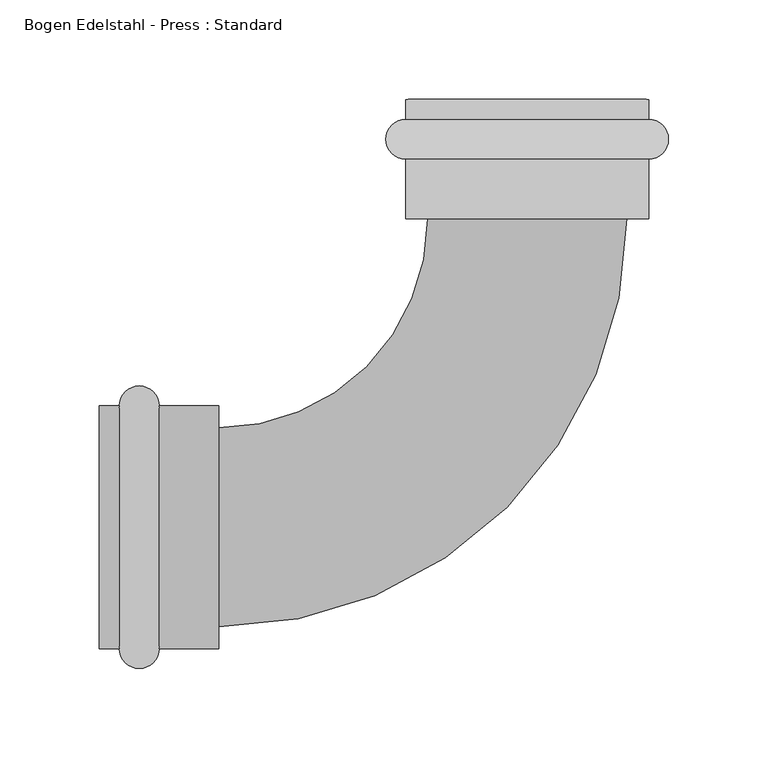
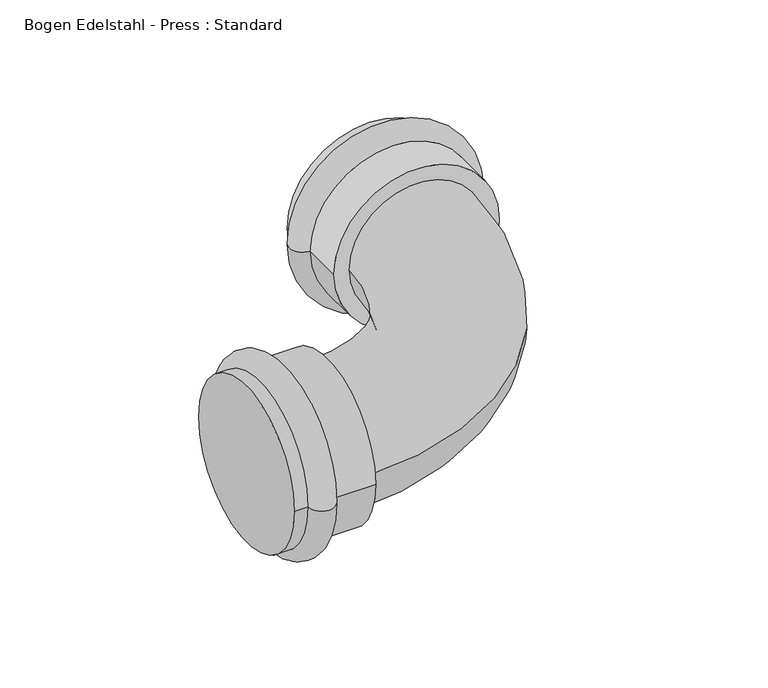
"""IFC4 building model written with IfcOpenShell, lengths in millimetres: pipe fitting geometry, Bogen Edelstahl - Press : Standard."""

from ifc_helpers import new_model, si_unit, point, frame, origin, place, context, project, spatial, circle_curve, ellipse_curve, trimmed, source, transform, mapped, element, save
from ifc_brep_helpers import plane_surface, cylinder_surface, revolved_surface, advanced_brep


def bogen_edelstahl_press_standard_c5dac5ad(model_context):
    return source(origin(), model_context, "Body", "AdvancedBrep", [
        advanced_brep(
        [(61.0, 155.0, 0.0), (-61.0, 155.0, 0.0), (61.0, 215.0, 0.0), (-61.0, 215.0, 0.0), (61.0, 185.0, 0.0), (-61.0, 185.0, 0.0), (-61.0, 205.0, 0.0), (61.0, 205.0, 0.0)],
        [
            (0, 1, circle_curve(frame((0.0, 155.0, 0.0), z_axis=(0.0, -1.0, 0.0), x_axis=(-1.0, 0.0, 0.0)), 61.0)),
            (1, 0, circle_curve(frame((0.0, 155.0, 0.0), z_axis=(0.0, -1.0, 0.0), x_axis=(-1.0, 0.0, 0.0)), 61.0)),
            (2, 3, circle_curve(frame((0.0, 215.0, 0.0), z_axis=(0.0, 1.0, 0.0), x_axis=(-1.0, 0.0, 0.0)), 61.0)),
            (3, 2, circle_curve(frame((0.0, 215.0, 0.0), z_axis=(0.0, 1.0, 0.0), x_axis=(-1.0, 0.0, 0.0)), 61.0)),
            (0, 4),
            (4, 5, circle_curve(frame((0.0, 185.0, 0.0), z_axis=(0.0, -1.0, 0.0), x_axis=(-1.0, 0.0, 0.0)), 61.0)),
            (5, 1),
            (3, 6),
            (6, 7, circle_curve(frame((0.0, 205.0, 0.0), z_axis=(0.0, 1.0, 0.0), x_axis=(-1.0, 0.0, 0.0)), 61.0)),
            (7, 2),
            (5, 4, circle_curve(frame((0.0, 185.0, 0.0), z_axis=(0.0, -1.0, 0.0), x_axis=(-1.0, 0.0, 0.0)), 61.0)),
            (7, 6, circle_curve(frame((0.0, 205.0, 0.0), z_axis=(0.0, 1.0, 0.0), x_axis=(-1.0, 0.0, 0.0)), 61.0)),
            (5, 6, circle_curve(frame((-61.0, 195.0, 0.0), z_axis=(0.0, 0.0, -1.0), x_axis=(0.0, 1.0, 0.0)), 10.0)),
            (7, 4, circle_curve(frame((61.0, 195.0, 0.0), z_axis=(0.0, 0.0, -1.0), x_axis=(0.0, 1.0, 0.0)), 10.0)),
        ],
        [
            plane_surface(frame((0.0, 155.0, 0.0), z_axis=(0.0, -1.0, 0.0), x_axis=(0.0, 0.0, 1.0))),
            plane_surface(frame((0.0, 215.0, 0.0), z_axis=(0.0, 1.0, 0.0), x_axis=(0.0, 0.0, 1.0))),
            cylinder_surface(frame((0.0, 155.0, 0.0), z_axis=(0.0, -1.0, 0.0), x_axis=(-1.0, 0.0, 0.0)), 61.0),
            revolved_surface(trimmed(ellipse_curve(frame((-61.0, 195.0, 0.0), z_axis=(0.0, 0.0, 1.0), x_axis=(0.0, 1.0, 0.0)), 10.0, 10.0), [point((-61.0, 205.0, 0.0))], [point((-61.0, 185.0, 0.0))], True, "CARTESIAN"), (0.0, 155.0, 0.0), (0.0, -1.0, 0.0)),
        ],
        [
            (0, [[1, 2]]),
            (1, [[3, 4]]),
            (2, [[-1, 5, 6, 7]]),
            (2, [[-4, 8, 9, 10]]),
            (2, [[-2, -7, 11, -5]]),
            (2, [[-3, -10, 12, -8]]),
            (3, [[13, -12, 14, -11]]),
            (3, [[-13, -6, -14, -9]]),
        ],
    ),
        advanced_brep(
        [(-215.0, -61.0, 0.0), (-215.0, 61.0, 0.0), (-155.0, -61.0, 0.0), (-155.0, 61.0, 0.0), (-205.0, -61.0, 0.0), (-205.0, 61.0, 0.0), (-185.0, 61.0, 0.0), (-185.0, -61.0, 0.0)],
        [
            (0, 1, circle_curve(frame((-215.0, 0.0, 0.0), z_axis=(-1.0, 0.0, 0.0), x_axis=(0.0, 1.0, 0.0)), 61.0)),
            (1, 0, circle_curve(frame((-215.0, 0.0, 0.0), z_axis=(-1.0, 0.0, 0.0), x_axis=(0.0, 1.0, 0.0)), 61.0)),
            (2, 3, circle_curve(frame((-155.0, 0.0, 0.0), z_axis=(1.0, 0.0, 0.0), x_axis=(0.0, 1.0, 0.0)), 61.0)),
            (3, 2, circle_curve(frame((-155.0, 0.0, 0.0), z_axis=(1.0, 0.0, 0.0), x_axis=(0.0, 1.0, 0.0)), 61.0)),
            (0, 4),
            (4, 5, circle_curve(frame((-205.0, 0.0, 0.0), z_axis=(-1.0, 0.0, 0.0), x_axis=(0.0, 1.0, 0.0)), 61.0)),
            (5, 1),
            (3, 6),
            (6, 7, circle_curve(frame((-185.0, 0.0, 0.0), z_axis=(1.0, 0.0, 0.0), x_axis=(0.0, 1.0, 0.0)), 61.0)),
            (7, 2),
            (5, 4, circle_curve(frame((-205.0, 0.0, 0.0), z_axis=(-1.0, 0.0, 0.0), x_axis=(0.0, 1.0, 0.0)), 61.0)),
            (7, 6, circle_curve(frame((-185.0, 0.0, 0.0), z_axis=(1.0, 0.0, 0.0), x_axis=(0.0, 1.0, 0.0)), 61.0)),
            (5, 6, circle_curve(frame((-195.0, 61.0, 0.0), z_axis=(0.0, 0.0, -1.0), x_axis=(1.0, 0.0, 0.0)), 10.0)),
            (7, 4, circle_curve(frame((-195.0, -61.0, 0.0), z_axis=(0.0, 0.0, -1.0), x_axis=(1.0, 0.0, 0.0)), 10.0)),
        ],
        [
            plane_surface(frame((-215.0, 0.0, 0.0), z_axis=(-1.0, 0.0, 0.0), x_axis=(0.0, 0.0, 1.0))),
            plane_surface(frame((-155.0, 0.0, 0.0), z_axis=(1.0, 0.0, 0.0), x_axis=(0.0, 0.0, 1.0))),
            cylinder_surface(frame((-215.0, 0.0, 0.0), z_axis=(-1.0, 0.0, 0.0), x_axis=(0.0, 1.0, 0.0)), 61.0),
            revolved_surface(trimmed(ellipse_curve(frame((-195.0, 61.0, 0.0), z_axis=(0.0, 0.0, 1.0), x_axis=(1.0, 0.0, 0.0)), 10.0, 10.0), [point((-185.0, 61.0, 0.0))], [point((-205.0, 61.0, 0.0))], True, "CARTESIAN"), (1524.0, 0.0, 0.0), (-1.0, 0.0, 0.0)),
        ],
        [
            (0, [[1, 2]]),
            (1, [[3, 4]]),
            (2, [[-1, 5, 6, 7]]),
            (2, [[-4, 8, 9, 10]]),
            (2, [[-2, -7, 11, -5]]),
            (2, [[-3, -10, 12, -8]]),
            (3, [[13, -12, 14, -11]]),
            (3, [[-13, -6, -14, -9]]),
        ],
    ),
        advanced_brep(
        [(-155.0, -50.0, 0.0), (-155.0, 50.0, 0.0), (50.0, 155.0, 0.0), (-50.0, 155.0, 0.0)],
        [
            (0, 1, circle_curve(frame((-155.0, 0.0, 0.0), z_axis=(-1.0, 0.0, 0.0), x_axis=(0.0, 1.0, 0.0)), 50.0)),
            (1, 0, circle_curve(frame((-155.0, 0.0, 0.0), z_axis=(-1.0, 0.0, 0.0), x_axis=(0.0, 1.0, 0.0)), 50.0)),
            (2, 3, circle_curve(frame((0.0, 155.0, 0.0), z_axis=(0.0, 1.0, 0.0), x_axis=(-1.0, 0.0, 0.0)), 50.0)),
            (3, 2, circle_curve(frame((0.0, 155.0, 0.0), z_axis=(0.0, 1.0, 0.0), x_axis=(-1.0, 0.0, 0.0)), 50.0)),
            (3, 1, circle_curve(frame((-155.0, 155.0, 0.0), z_axis=(0.0, 0.0, -1.0), x_axis=(0.0, -1.0, 0.0)), 105.0)),
            (0, 2, circle_curve(frame((-155.0, 155.0, 0.0), z_axis=(0.0, 0.0, 1.0), x_axis=(0.0, -1.0, 0.0)), 205.0)),
        ],
        [
            plane_surface(frame((-155.0, 0.0, 0.0), z_axis=(-1.0, 0.0, 0.0), x_axis=(0.0, 0.0, 1.0))),
            plane_surface(frame((0.0, 155.0, 0.0), z_axis=(0.0, 1.0, 0.0), x_axis=(0.0, 0.0, 1.0))),
            revolved_surface(trimmed(ellipse_curve(frame((-155.0, 0.0, 0.0), z_axis=(-1.0, 0.0, 0.0), x_axis=(0.0, 1.0, 0.0)), 50.0, 50.0), [point((-155.0, -50.0, 0.0))], [point((-155.0, 50.0, 0.0))], True, "CARTESIAN"), (-155.0, 155.0, 0.0), (0.0, 0.0, 1.0)),
            revolved_surface(trimmed(ellipse_curve(frame((-155.0, 0.0, 0.0), z_axis=(-1.0, 0.0, 0.0), x_axis=(0.0, 1.0, 0.0)), 50.0, 50.0), [point((-155.0, 50.0, 0.0))], [point((-155.0, -50.0, 0.0))], True, "CARTESIAN"), (-155.0, 155.0, 0.0), (0.0, 0.0, 1.0)),
        ],
        [
            (0, [[1, 2]]),
            (1, [[3, 4]]),
            (2, [[5, -1, 6, -4]]),
            (3, [[-6, -2, -5, -3]]),
        ],
    ),
    ])


if __name__ == "__main__":
    model = new_model("IFC4")
    model_context = context("Model", 3, world=origin())
    ifc_project = project(units=[si_unit("LENGTHUNIT", "METRE", prefix="MILLI")], contexts=[model_context])
    site = spatial("IfcSite", under=ifc_project)
    building = spatial("IfcBuilding", under=site)
    placement = place(None, origin())
    bogen_edelstahl_press_standard_shape = bogen_edelstahl_press_standard_c5dac5ad(model_context)
    element("IfcPipeFitting", 1, ObjectType="Bogen Edelstahl - Press : Standard", at=placement, inside=building, context=model_context, shape_type="MappedRepresentation", body=[
        mapped(bogen_edelstahl_press_standard_shape, transform((0.0, 0.0, 0.0), x_axis=(1.0, 0.0, 0.0), y_axis=(0.0, 1.0, 0.0), z_axis=(0.0, 0.0, 1.0))),
    ])
    save(model, "model.ifc")
